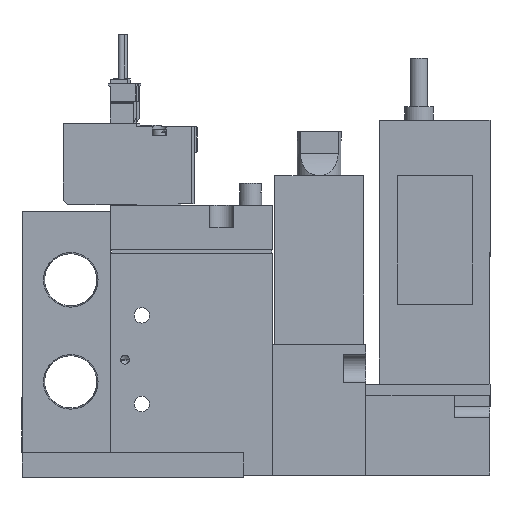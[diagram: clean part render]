
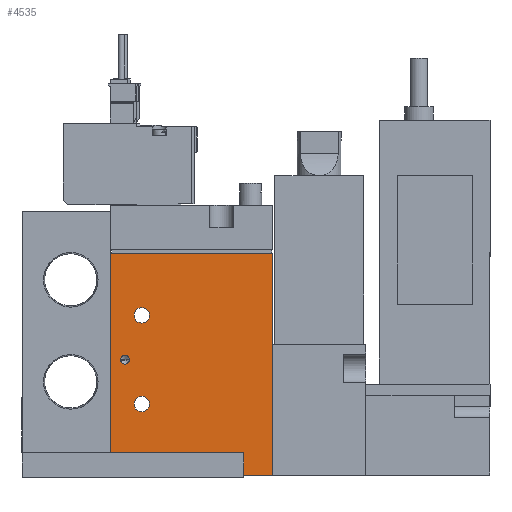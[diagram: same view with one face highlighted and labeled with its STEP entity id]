
A CAD part, left-side view. The second image highlights one B-rep face of the part: STEP entity #4535.
In plain terms, the highlighted planar face has unit normal (-1, 0, 0) as drawn and (1, 0, 0) by its records, which use the part's own axes.
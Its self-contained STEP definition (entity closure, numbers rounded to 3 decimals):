
#4535=ADVANCED_FACE('',(#7080,#7081,#7082,#7083),#7084,.F.);
#7080=FACE_BOUND('',#12602,.T.);
#7081=FACE_BOUND('',#12603,.T.);
#7082=FACE_BOUND('',#12604,.T.);
#7083=FACE_OUTER_BOUND('',#12605,.T.);
#7084=PLANE('',#12606);
#12602=EDGE_LOOP('',(#18542));
#12603=EDGE_LOOP('',(#18543));
#12604=EDGE_LOOP('',(#18544));
#12605=EDGE_LOOP('',(#18545,#18546,#18547,#18548));
#12606=AXIS2_PLACEMENT_3D('',#18549,#18550,#18551);
#18542=ORIENTED_EDGE('',*,*,#36959,.F.);
#18543=ORIENTED_EDGE('',*,*,#36961,.T.);
#18544=ORIENTED_EDGE('',*,*,#36962,.T.);
#18545=ORIENTED_EDGE('',*,*,#36952,.T.);
#18546=ORIENTED_EDGE('',*,*,#36949,.F.);
#18547=ORIENTED_EDGE('',*,*,#36953,.F.);
#18548=ORIENTED_EDGE('',*,*,#36945,.T.);
#18549=CARTESIAN_POINT('',(8.5,-19.444,50.0));
#18550=DIRECTION('',(-1.0,0.0,0.0));
#18551=DIRECTION('',(0.0,0.0,1.0));
#36945=EDGE_CURVE('',#42908,#42906,#42909,.T.);
#36949=EDGE_CURVE('',#42913,#42911,#42915,.T.);
#36952=EDGE_CURVE('',#42906,#42911,#42920,.T.);
#36953=EDGE_CURVE('',#42908,#42913,#42921,.T.);
#36959=EDGE_CURVE('',#42930,#42930,#42931,.T.);
#36961=EDGE_CURVE('',#42932,#42932,#42933,.T.);
#36962=EDGE_CURVE('',#42934,#42934,#42935,.T.);
#42906=VERTEX_POINT('',#52920);
#42908=VERTEX_POINT('',#52923);
#42909=LINE('',#52924,#52925);
#42911=VERTEX_POINT('',#52928);
#42913=VERTEX_POINT('',#52931);
#42915=LINE('',#52934,#52935);
#42920=LINE('',#52940,#52941);
#42921=LINE('',#52942,#52943);
#42930=VERTEX_POINT('',#52952);
#42931=CIRCLE('',#52953,1.0);
#42932=VERTEX_POINT('',#52954);
#42933=CIRCLE('',#52955,1.75);
#42934=VERTEX_POINT('',#52956);
#42935=CIRCLE('',#52957,1.75);
#52920=CARTESIAN_POINT('',(8.5,-19.444,0.0));
#52923=CARTESIAN_POINT('',(8.5,-19.444,50.0));
#52924=CARTESIAN_POINT('',(8.5,-19.444,50.0));
#52925=VECTOR('',#67654,1.0);
#52928=CARTESIAN_POINT('',(8.5,17.056,0.0));
#52931=CARTESIAN_POINT('',(8.5,17.056,50.0));
#52934=CARTESIAN_POINT('',(8.5,17.056,50.0));
#52935=VECTOR('',#67658,1.0);
#52940=CARTESIAN_POINT('',(8.5,-19.444,0.0));
#52941=VECTOR('',#67665,1.0);
#52942=CARTESIAN_POINT('',(8.5,-19.444,50.0));
#52943=VECTOR('',#67666,1.0);
#52952=CARTESIAN_POINT('',(8.5,-17.244,26.0));
#52953=AXIS2_PLACEMENT_3D('',#67679,#67680,#67681);
#52954=CARTESIAN_POINT('',(8.5,-10.694,36.0));
#52955=AXIS2_PLACEMENT_3D('',#67682,#67683,#67684);
#52956=CARTESIAN_POINT('',(8.5,-10.694,16.0));
#52957=AXIS2_PLACEMENT_3D('',#67685,#67686,#67687);
#67654=DIRECTION('',(0.0,0.0,-1.0));
#67658=DIRECTION('',(0.0,0.0,-1.0));
#67665=DIRECTION('',(0.0,1.0,0.0));
#67666=DIRECTION('',(0.0,1.0,0.0));
#67679=CARTESIAN_POINT('',(8.5,-16.244,26.0));
#67680=DIRECTION('',(1.0,0.,0.0));
#67681=DIRECTION('',(0.,-1.0,0.0));
#67682=CARTESIAN_POINT('',(8.5,-12.444,36.0));
#67683=DIRECTION('',(-1.0,0.0,0.0));
#67684=DIRECTION('',(0.0,1.0,0.0));
#67685=CARTESIAN_POINT('',(8.5,-12.444,16.0));
#67686=DIRECTION('',(-1.0,0.0,0.0));
#67687=DIRECTION('',(0.0,1.0,0.0));
